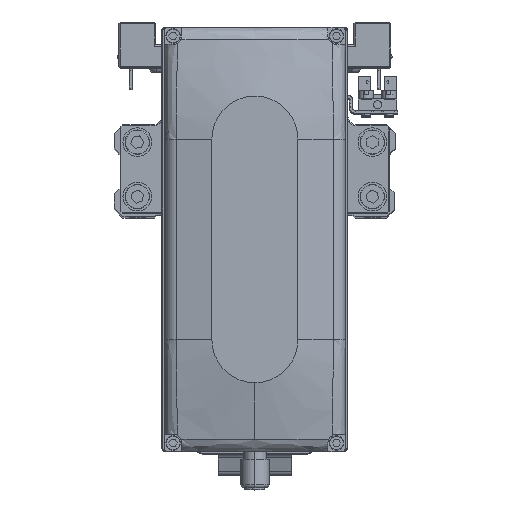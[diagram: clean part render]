
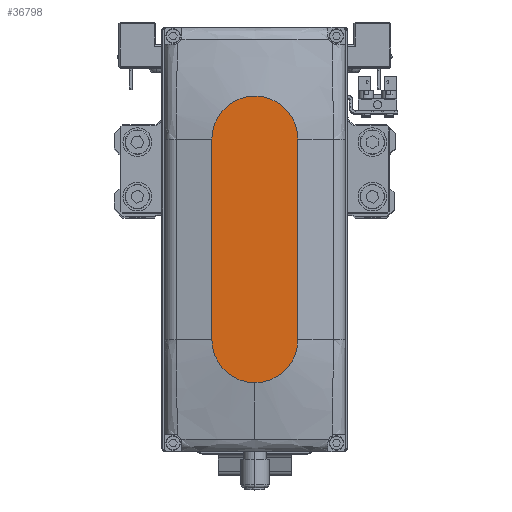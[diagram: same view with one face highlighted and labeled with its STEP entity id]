
A CAD part, top view. The second image highlights one B-rep face of the part: STEP entity #36798.
In plain terms, the highlighted planar face has unit normal (0, 0, 1).
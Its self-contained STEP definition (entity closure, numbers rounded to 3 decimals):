
#126 = VERTEX_POINT ( 'NONE', #25826 ) ;
#3223 = CARTESIAN_POINT ( 'NONE',  ( 35., 0., 35. ) ) ;
#3506 = EDGE_CURVE ( 'NONE', #38700, #126, #4257, .T. ) ;
#3517 = DIRECTION ( 'NONE',  ( 0., 0., 1. ) ) ;
#4257 = CIRCLE ( 'NONE', #26643, 15. ) ;
#4675 = DIRECTION ( 'NONE',  ( 1., 0., 0. ) ) ;
#6093 = CARTESIAN_POINT ( 'NONE',  ( -35., 0., 35. ) ) ;
#6524 = FACE_OUTER_BOUND ( 'NONE', #21882, .T. ) ;
#8304 = CARTESIAN_POINT ( 'NONE',  ( -35., -15., 35. ) ) ;
#8424 = AXIS2_PLACEMENT_3D ( 'NONE', #10680, #32097, #4675 ) ;
#9295 = EDGE_CURVE ( 'NONE', #9744, #36215, #25669, .T. ) ;
#9744 = VERTEX_POINT ( 'NONE', #32044 ) ;
#10680 = CARTESIAN_POINT ( 'NONE',  ( 35., 0., 35. ) ) ;
#11771 = CARTESIAN_POINT ( 'NONE',  ( 35., 15., 35. ) ) ;
#12008 = LINE ( 'NONE', #24231, #24764 ) ;
#14100 = ORIENTED_EDGE ( 'NONE', *, *, #20186, .T. ) ;
#15513 = CARTESIAN_POINT ( 'NONE',  ( -35., 15., 35. ) ) ;
#15718 = DIRECTION ( 'NONE',  ( 1., 0., 0. ) ) ;
#17520 = CARTESIAN_POINT ( 'NONE',  ( 35., -15., 35. ) ) ;
#17631 = VECTOR ( 'NONE', #20510, 1000. ) ;
#18292 = DIRECTION ( 'NONE',  ( 0., 0., 1. ) ) ;
#18724 = PLANE ( 'NONE',  #23132 ) ;
#19774 = CIRCLE ( 'NONE', #24894, 15. ) ;
#20186 = EDGE_CURVE ( 'NONE', #126, #30638, #35725, .T. ) ;
#20510 = DIRECTION ( 'NONE',  ( 1., 0., 0. ) ) ;
#21774 = EDGE_CURVE ( 'NONE', #36215, #38700, #12008, .T. ) ;
#21882 = EDGE_LOOP ( 'NONE', ( #24474, #37622, #14100, #26789, #30200 ) ) ;
#23132 = AXIS2_PLACEMENT_3D ( 'NONE', #30935, #3517, #15718 ) ;
#24231 = CARTESIAN_POINT ( 'NONE',  ( -35., 15., 35. ) ) ;
#24474 = ORIENTED_EDGE ( 'NONE', *, *, #21774, .T. ) ;
#24632 = DIRECTION ( 'NONE',  ( 0., 0., 1. ) ) ;
#24764 = VECTOR ( 'NONE', #36446, 1000. ) ;
#24887 = EDGE_CURVE ( 'NONE', #30638, #9744, #19774, .T. ) ;
#24894 = AXIS2_PLACEMENT_3D ( 'NONE', #3223, #24632, #36842 ) ;
#25669 = CIRCLE ( 'NONE', #8424, 15. ) ;
#25826 = CARTESIAN_POINT ( 'NONE',  ( -35., -15., 35. ) ) ;
#26643 = AXIS2_PLACEMENT_3D ( 'NONE', #6093, #18292, #30515 ) ;
#26789 = ORIENTED_EDGE ( 'NONE', *, *, #24887, .T. ) ;
#30200 = ORIENTED_EDGE ( 'NONE', *, *, #9295, .T. ) ;
#30515 = DIRECTION ( 'NONE',  ( 1., 0., 0. ) ) ;
#30638 = VERTEX_POINT ( 'NONE', #17520 ) ;
#30935 = CARTESIAN_POINT ( 'NONE',  ( 0., 0., 35. ) ) ;
#32044 = CARTESIAN_POINT ( 'NONE',  ( 50., 0., 35. ) ) ;
#32097 = DIRECTION ( 'NONE',  ( 0., 0., 1. ) ) ;
#35725 = LINE ( 'NONE', #8304, #17631 ) ;
#36215 = VERTEX_POINT ( 'NONE', #11771 ) ;
#36446 = DIRECTION ( 'NONE',  ( -1., 0., 0. ) ) ;
#36798 = ADVANCED_FACE ( 'NONE', ( #6524 ), #18724, .T. ) ;
#36842 = DIRECTION ( 'NONE',  ( 1., 0., 0. ) ) ;
#37622 = ORIENTED_EDGE ( 'NONE', *, *, #3506, .T. ) ;
#38700 = VERTEX_POINT ( 'NONE', #15513 ) ;
